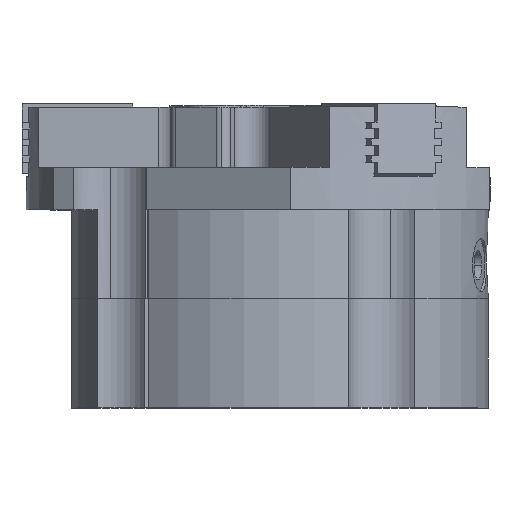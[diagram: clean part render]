
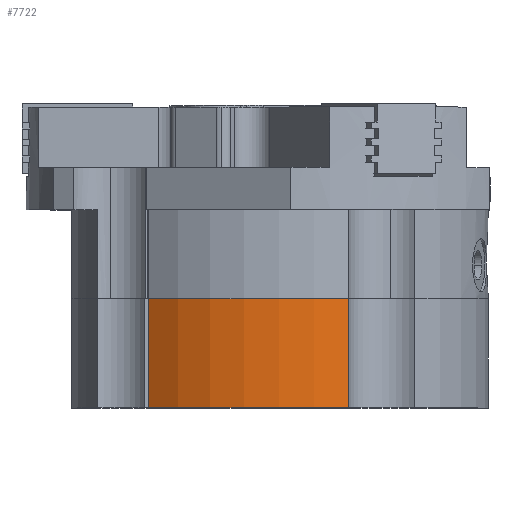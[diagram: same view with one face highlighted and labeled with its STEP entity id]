
A CAD part, top view. The second image highlights one B-rep face of the part: STEP entity #7722.
In plain terms, the highlighted cylindrical face has radius 62.5 mm (diameter 125 mm), a partial arc.
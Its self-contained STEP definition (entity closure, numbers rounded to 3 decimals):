
#106 = CARTESIAN_POINT ( 'NONE',  ( -58.93, 0., 20.822 ) ) ;
#957 = VERTEX_POINT ( 'NONE', #13305 ) ;
#1148 = ORIENTED_EDGE ( 'NONE', *, *, #1615, .T. ) ;
#1615 = EDGE_CURVE ( 'NONE', #13442, #12095, #9210, .T. ) ;
#1806 = EDGE_CURVE ( 'NONE', #12900, #13442, #7685, .T. ) ;
#2633 = ORIENTED_EDGE ( 'NONE', *, *, #1806, .T. ) ;
#2763 = CARTESIAN_POINT ( 'NONE',  ( -49.109, 32.5, -38.659 ) ) ;
#2978 = AXIS2_PLACEMENT_3D ( 'NONE', #8064, #8016, #12116 ) ;
#3452 = CARTESIAN_POINT ( 'NONE',  ( -49.109, 32.5, -38.659 ) ) ;
#3515 = CARTESIAN_POINT ( 'NONE',  ( 0., 0., 0. ) ) ;
#3520 = CARTESIAN_POINT ( 'NONE',  ( -49.109, 0., -38.659 ) ) ;
#3727 = CIRCLE ( 'NONE', #2978, 62.5 ) ;
#4296 = DIRECTION ( 'NONE',  ( 0., 1., 0. ) ) ;
#4508 = DIRECTION ( 'NONE',  ( 0., 1., 0. ) ) ;
#4946 = FACE_OUTER_BOUND ( 'NONE', #13056, .T. ) ;
#5594 = DIRECTION ( 'NONE',  ( 0., 0., -1. ) ) ;
#5612 = CYLINDRICAL_SURFACE ( 'NONE', #8935, 62.5 ) ;
#6481 = ORIENTED_EDGE ( 'NONE', *, *, #12771, .T. ) ;
#7444 = CARTESIAN_POINT ( 'NONE',  ( 0., 32.5, 0. ) ) ;
#7685 = LINE ( 'NONE', #2763, #8205 ) ;
#7722 = ADVANCED_FACE ( 'NONE', ( #4946 ), #5612, .T. ) ;
#8016 = DIRECTION ( 'NONE',  ( 0., -1., 0. ) ) ;
#8064 = CARTESIAN_POINT ( 'NONE',  ( 0., 32.5, 0. ) ) ;
#8205 = VECTOR ( 'NONE', #11414, 1000. ) ;
#8537 = DIRECTION ( 'NONE',  ( 0., -1., 0. ) ) ;
#8935 = AXIS2_PLACEMENT_3D ( 'NONE', #7444, #8537, #9618 ) ;
#9210 = CIRCLE ( 'NONE', #11385, 62.5 ) ;
#9458 = LINE ( 'NONE', #12858, #10446 ) ;
#9618 = DIRECTION ( 'NONE',  ( 0., 0., -1. ) ) ;
#10446 = VECTOR ( 'NONE', #4296, 1000. ) ;
#11385 = AXIS2_PLACEMENT_3D ( 'NONE', #3515, #4508, #5594 ) ;
#11414 = DIRECTION ( 'NONE',  ( 0., -1., 0. ) ) ;
#12095 = VERTEX_POINT ( 'NONE', #106 ) ;
#12116 = DIRECTION ( 'NONE',  ( 0., 0., -1. ) ) ;
#12265 = EDGE_CURVE ( 'NONE', #957, #12900, #3727, .T. ) ;
#12581 = ORIENTED_EDGE ( 'NONE', *, *, #12265, .T. ) ;
#12771 = EDGE_CURVE ( 'NONE', #12095, #957, #9458, .T. ) ;
#12858 = CARTESIAN_POINT ( 'NONE',  ( -58.93, -23.5, 20.822 ) ) ;
#12900 = VERTEX_POINT ( 'NONE', #3452 ) ;
#13056 = EDGE_LOOP ( 'NONE', ( #12581, #2633, #1148, #6481 ) ) ;
#13305 = CARTESIAN_POINT ( 'NONE',  ( -58.93, 32.5, 20.822 ) ) ;
#13442 = VERTEX_POINT ( 'NONE', #3520 ) ;
